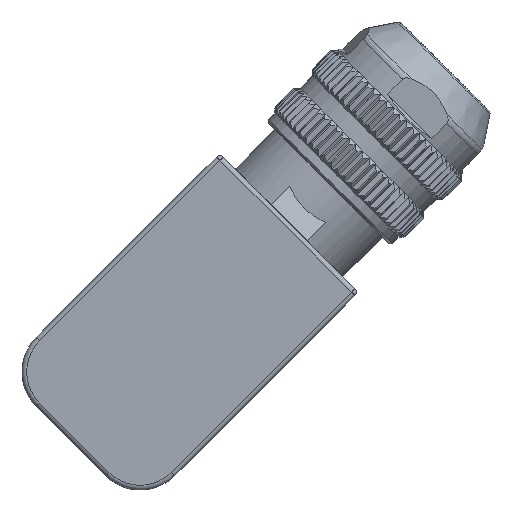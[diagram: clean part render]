
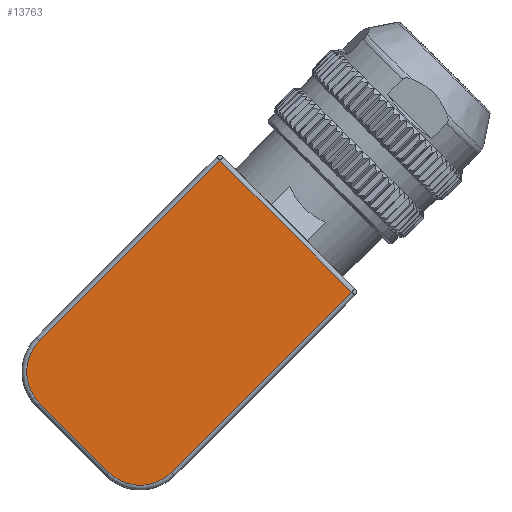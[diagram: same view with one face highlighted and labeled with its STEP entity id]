
A CAD part, left-side view. The second image highlights one B-rep face of the part: STEP entity #13763.
In plain terms, the highlighted planar face has unit normal (-1, 0, 0).
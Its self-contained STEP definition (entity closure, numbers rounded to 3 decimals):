
#302 = VERTEX_POINT ( 'NONE', #379 ) ;
#379 = CARTESIAN_POINT ( 'NONE',  ( -14.5, -7.637, 21.072 ) ) ;
#697 = CARTESIAN_POINT ( 'NONE',  ( -14.5, -21.425, 7.99 ) ) ;
#2065 = VERTEX_POINT ( 'NONE', #19301 ) ;
#3024 = CARTESIAN_POINT ( 'NONE',  ( -14.5, 10.748, 2.687 ) ) ;
#5464 = ORIENTED_EDGE ( 'NONE', *, *, #12941, .T. ) ;
#5770 = EDGE_LOOP ( 'NONE', ( #30273, #22016, #5464, #49254, #36442, #29288 ) ) ;
#6311 = LINE ( 'NONE', #3024, #17853 ) ;
#8853 = DIRECTION ( 'NONE',  ( 0., -0.707, 0.707 ) ) ;
#9610 = CIRCLE ( 'NONE', #38649, 4.5 ) ;
#10219 = CARTESIAN_POINT ( 'NONE',  ( -14.5, 0.495, -7.566 ) ) ;
#10865 = CARTESIAN_POINT ( 'NONE',  ( -14.5, -21.072, 7.637 ) ) ;
#11529 = EDGE_CURVE ( 'NONE', #32683, #2065, #9610, .T. ) ;
#11681 = EDGE_CURVE ( 'NONE', #34101, #33938, #34446, .T. ) ;
#12013 = VECTOR ( 'NONE', #8853, 1000. ) ;
#12772 = EDGE_CURVE ( 'NONE', #2065, #16775, #16799, .T. ) ;
#12941 = EDGE_CURVE ( 'NONE', #33938, #302, #44130, .T. ) ;
#13396 = AXIS2_PLACEMENT_3D ( 'NONE', #30044, #18678, #26288 ) ;
#13763 = ADVANCED_FACE ( 'NONE', ( #48923 ), #42097, .T. ) ;
#15057 = DIRECTION ( 'NONE',  ( 0., 0.707, -0.707 ) ) ;
#15640 = DIRECTION ( 'NONE',  ( -1., 0., 0. ) ) ;
#16208 = VECTOR ( 'NONE', #31353, 1000. ) ;
#16775 = VERTEX_POINT ( 'NONE', #42112 ) ;
#16799 = LINE ( 'NONE', #26922, #16208 ) ;
#17853 = VECTOR ( 'NONE', #15057, 1000. ) ;
#18311 = AXIS2_PLACEMENT_3D ( 'NONE', #10219, #41093, #44823 ) ;
#18678 = DIRECTION ( 'NONE',  ( -1., 0., 0. ) ) ;
#19301 = CARTESIAN_POINT ( 'NONE',  ( -14.5, 10.748, -3.677 ) ) ;
#22016 = ORIENTED_EDGE ( 'NONE', *, *, #11681, .T. ) ;
#25874 = VECTOR ( 'NONE', #47444, 1000. ) ;
#26288 = DIRECTION ( 'NONE',  ( 0., 0.707, -0.707 ) ) ;
#26922 = CARTESIAN_POINT ( 'NONE',  ( -14.5, 3.677, -10.748 ) ) ;
#29288 = ORIENTED_EDGE ( 'NONE', *, *, #12772, .T. ) ;
#30044 = CARTESIAN_POINT ( 'NONE',  ( -14.5, -7.283, 7.283 ) ) ;
#30273 = ORIENTED_EDGE ( 'NONE', *, *, #42162, .T. ) ;
#31353 = DIRECTION ( 'NONE',  ( 0., -0.707, -0.707 ) ) ;
#31503 = CIRCLE ( 'NONE', #18311, 4.5 ) ;
#32683 = VERTEX_POINT ( 'NONE', #34117 ) ;
#33938 = VERTEX_POINT ( 'NONE', #10865 ) ;
#34101 = VERTEX_POINT ( 'NONE', #42915 ) ;
#34117 = CARTESIAN_POINT ( 'NONE',  ( -14.5, 10.748, 2.687 ) ) ;
#34446 = LINE ( 'NONE', #697, #12013 ) ;
#34968 = CARTESIAN_POINT ( 'NONE',  ( -14.5, 7.566, -0.495 ) ) ;
#36078 = CARTESIAN_POINT ( 'NONE',  ( -14.5, -7.283, 21.425 ) ) ;
#36442 = ORIENTED_EDGE ( 'NONE', *, *, #11529, .T. ) ;
#38649 = AXIS2_PLACEMENT_3D ( 'NONE', #34968, #15640, #50238 ) ;
#41093 = DIRECTION ( 'NONE',  ( -1., 0., 0. ) ) ;
#42097 = PLANE ( 'NONE',  #13396 ) ;
#42112 = CARTESIAN_POINT ( 'NONE',  ( -14.5, 3.677, -10.748 ) ) ;
#42162 = EDGE_CURVE ( 'NONE', #16775, #34101, #31503, .T. ) ;
#42915 = CARTESIAN_POINT ( 'NONE',  ( -14.5, -2.687, -10.748 ) ) ;
#44130 = LINE ( 'NONE', #36078, #25874 ) ;
#44823 = DIRECTION ( 'NONE',  ( 0., 0.707, -0.707 ) ) ;
#47320 = EDGE_CURVE ( 'NONE', #302, #32683, #6311, .T. ) ;
#47444 = DIRECTION ( 'NONE',  ( 0., 0.707, 0.707 ) ) ;
#48923 = FACE_OUTER_BOUND ( 'NONE', #5770, .T. ) ;
#49254 = ORIENTED_EDGE ( 'NONE', *, *, #47320, .T. ) ;
#50238 = DIRECTION ( 'NONE',  ( 0., 0.707, -0.707 ) ) ;
